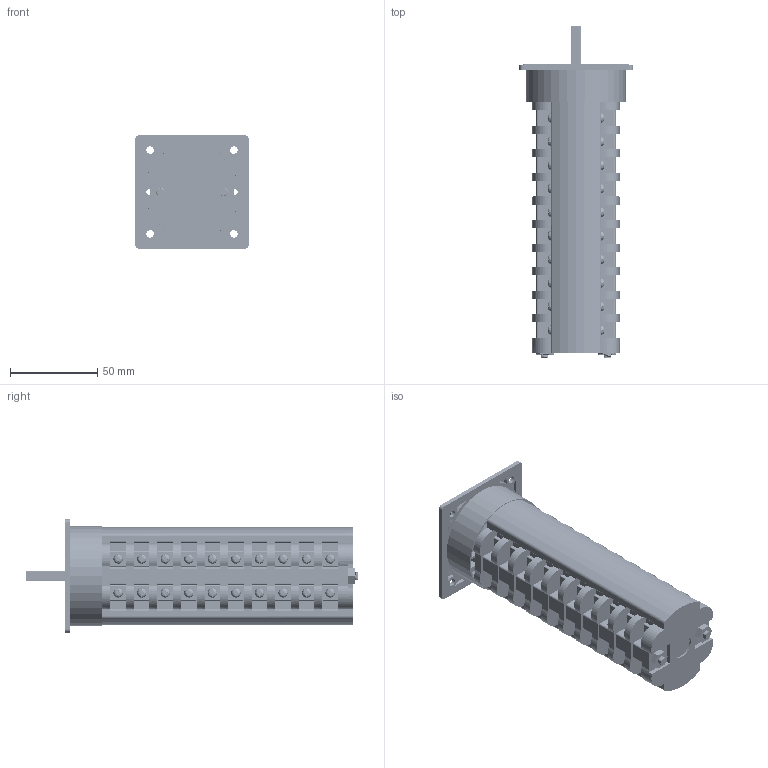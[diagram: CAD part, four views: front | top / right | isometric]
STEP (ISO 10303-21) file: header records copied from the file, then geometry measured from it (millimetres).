
FILE_DESCRIPTION(/* description */ (''),/* implementation_level */ '2;1');
FILE_NAME(/* name */ '4G16,25_standard_10_korpusow.stp',/* time_stamp */ '2021-07-21T14:25:52+02:00',/* author */ (''),/* organization */ (''),/* preprocessor_version */ 'ST-DEVELOPER v18.1',/* originating_system */ 'SIEMENS PLM Software NX 1965',/* authorisation */ '');
FILE_SCHEMA (('AUTOMOTIVE_DESIGN { 1 0 10303 214 3 1 1 1 }'));
Products named in the file (1): 4G16,25_standard_10_korpusow_stp
Bounding box: 65 x 190.2 x 65 mm (x, y, z)
Volume: 323147.6 mm3; surface area: 72854.4 mm2
Topology: 1 solids, 5 shells, 2005 faces, 5633 edges, 3724 vertices
Faces by surface type: plane 1198, cylinder 544, bspline 182, cone 81
Full cylindrical faces by diameter (mm): 3.3 x3, 4 x4, 4.3 x4, 5 x2, 5.4 x40, 6.5 x2, 7.2 x4, 10 x1, 14 x1, 57 x1
Entity records: 184901 total; most frequent: CARTESIAN_POINT 135677, ORIENTED_EDGE 10864, DIRECTION 9255, EDGE_CURVE 5432, VERTEX_POINT 3631, AXIS2_PLACEMENT_3D 3305, LINE 2645, VECTOR 2645
